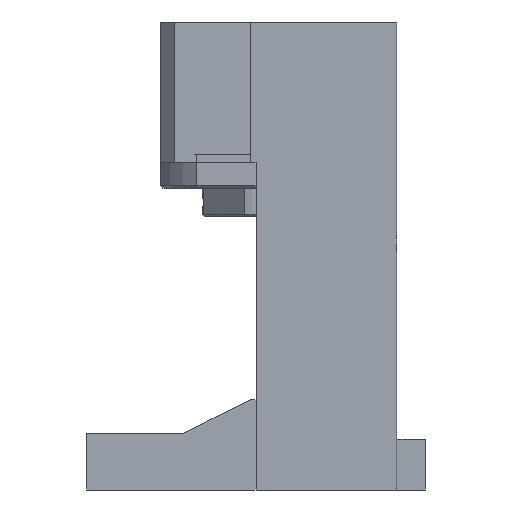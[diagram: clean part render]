
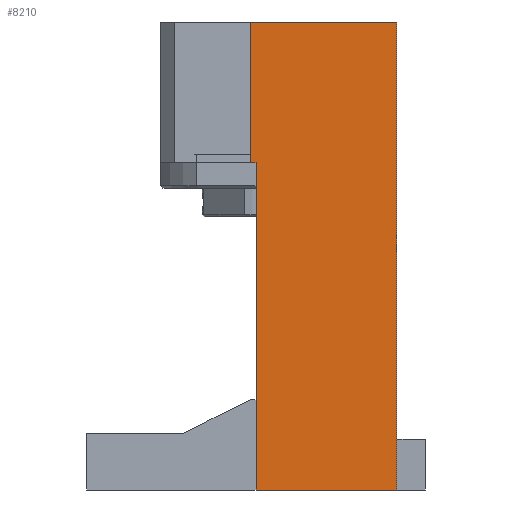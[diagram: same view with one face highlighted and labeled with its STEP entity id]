
A CAD part, left-side view. The second image highlights one B-rep face of the part: STEP entity #8210.
In plain terms, the highlighted planar face has unit normal (-1, 0, 0).
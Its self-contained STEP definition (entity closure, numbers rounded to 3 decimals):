
#81 = CARTESIAN_POINT ( 'NONE',  ( -35., 1., -20. ) ) ;
#173 = VECTOR ( 'NONE', #1408, 1000. ) ;
#490 = LINE ( 'NONE', #4382, #2265 ) ;
#647 = PLANE ( 'NONE',  #7825 ) ;
#816 = CARTESIAN_POINT ( 'NONE',  ( -35., -30., -78. ) ) ;
#1023 = CARTESIAN_POINT ( 'NONE',  ( -35., -25., 5. ) ) ;
#1089 = LINE ( 'NONE', #816, #5649 ) ;
#1109 = ORIENTED_EDGE ( 'NONE', *, *, #3653, .F. ) ;
#1136 = VECTOR ( 'NONE', #2722, 1000. ) ;
#1294 = DIRECTION ( 'NONE',  ( -1., 0., 0. ) ) ;
#1408 = DIRECTION ( 'NONE',  ( 0., 0., 1. ) ) ;
#1453 = CARTESIAN_POINT ( 'NONE',  ( -35., 1., 5. ) ) ;
#1509 = DIRECTION ( 'NONE',  ( 0., -1., 0. ) ) ;
#1559 = LINE ( 'NONE', #3439, #1136 ) ;
#1563 = EDGE_CURVE ( 'NONE', #5940, #4682, #1089, .T. ) ;
#1930 = LINE ( 'NONE', #2731, #173 ) ;
#2046 = VERTEX_POINT ( 'NONE', #81 ) ;
#2265 = VECTOR ( 'NONE', #8189, 1000. ) ;
#2483 = ORIENTED_EDGE ( 'NONE', *, *, #4647, .F. ) ;
#2690 = LINE ( 'NONE', #6382, #4434 ) ;
#2722 = DIRECTION ( 'NONE',  ( 0., 0., 1. ) ) ;
#2731 = CARTESIAN_POINT ( 'NONE',  ( -35., 1., -18. ) ) ;
#3439 = CARTESIAN_POINT ( 'NONE',  ( -35., 0., 0. ) ) ;
#3653 = EDGE_CURVE ( 'NONE', #5940, #5919, #1559, .T. ) ;
#3721 = LINE ( 'NONE', #4664, #8375 ) ;
#4382 = CARTESIAN_POINT ( 'NONE',  ( -35., 1., 5. ) ) ;
#4434 = VECTOR ( 'NONE', #6322, 1000. ) ;
#4484 = FACE_OUTER_BOUND ( 'NONE', #7306, .T. ) ;
#4647 = EDGE_CURVE ( 'NONE', #5919, #2046, #2690, .T. ) ;
#4664 = CARTESIAN_POINT ( 'NONE',  ( -35., -25., -18. ) ) ;
#4682 = VERTEX_POINT ( 'NONE', #6027 ) ;
#5173 = ORIENTED_EDGE ( 'NONE', *, *, #7338, .T. ) ;
#5573 = VERTEX_POINT ( 'NONE', #1023 ) ;
#5649 = VECTOR ( 'NONE', #1509, 1000. ) ;
#5717 = CARTESIAN_POINT ( 'NONE',  ( -35., 0., -78. ) ) ;
#5841 = DIRECTION ( 'NONE',  ( 0., -1., 0. ) ) ;
#5919 = VERTEX_POINT ( 'NONE', #6447 ) ;
#5929 = DIRECTION ( 'NONE',  ( 0., 0., 1. ) ) ;
#5940 = VERTEX_POINT ( 'NONE', #5717 ) ;
#6027 = CARTESIAN_POINT ( 'NONE',  ( -35., -25., -78. ) ) ;
#6322 = DIRECTION ( 'NONE',  ( 0., 1., 0. ) ) ;
#6382 = CARTESIAN_POINT ( 'NONE',  ( -35., 0., -20. ) ) ;
#6447 = CARTESIAN_POINT ( 'NONE',  ( -35., 0., -20. ) ) ;
#6475 = ORIENTED_EDGE ( 'NONE', *, *, #1563, .T. ) ;
#6480 = EDGE_CURVE ( 'NONE', #7892, #5573, #490, .T. ) ;
#6750 = EDGE_CURVE ( 'NONE', #2046, #7892, #1930, .T. ) ;
#7176 = ORIENTED_EDGE ( 'NONE', *, *, #6750, .F. ) ;
#7306 = EDGE_LOOP ( 'NONE', ( #7176, #2483, #1109, #6475, #5173, #7686 ) ) ;
#7338 = EDGE_CURVE ( 'NONE', #4682, #5573, #3721, .T. ) ;
#7686 = ORIENTED_EDGE ( 'NONE', *, *, #6480, .F. ) ;
#7825 = AXIS2_PLACEMENT_3D ( 'NONE', #8399, #1294, #5841 ) ;
#7892 = VERTEX_POINT ( 'NONE', #1453 ) ;
#8189 = DIRECTION ( 'NONE',  ( 0., -1., 0. ) ) ;
#8210 = ADVANCED_FACE ( 'NONE', ( #4484 ), #647, .T. ) ;
#8375 = VECTOR ( 'NONE', #5929, 1000. ) ;
#8399 = CARTESIAN_POINT ( 'NONE',  ( -35., 1., -18. ) ) ;
